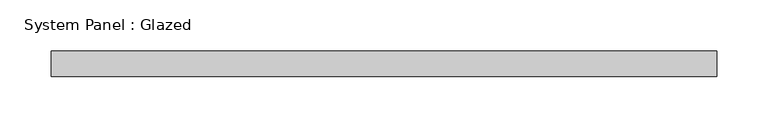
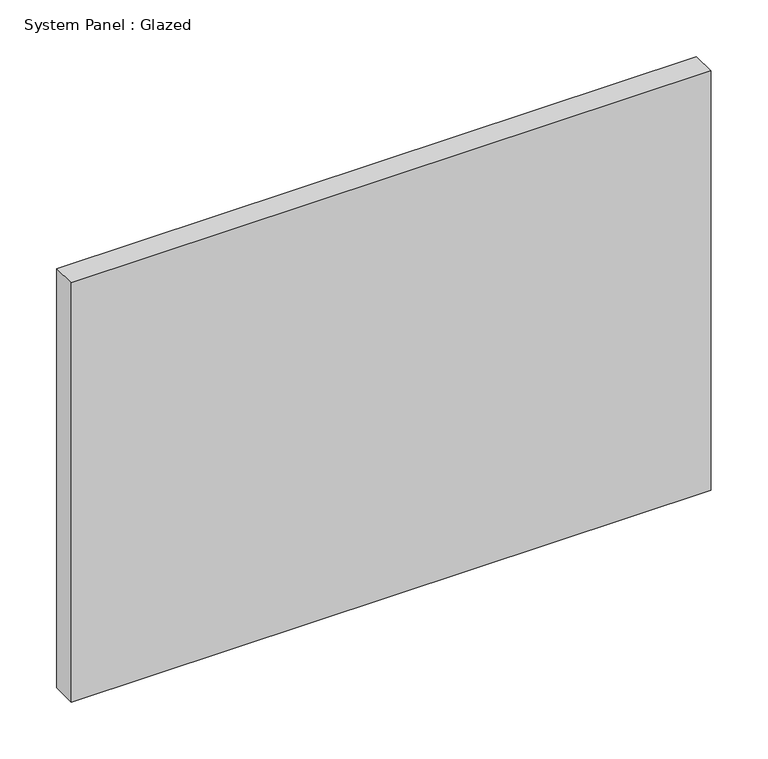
"""IFC4 building model written with IfcOpenShell, lengths in millimetres: plate geometry, System Panel : Glazed."""

from ifc_helpers import new_model, si_unit, origin, origin_with_axes, place, context, project, spatial, polyline, outline, extrude, source, transform, mapped, element, save


def system_panel_glazed_61722dae(model_context):
    return source(origin(), model_context, "Body", "SweptSolid", [
        extrude(outline(polyline([(325.0000001, -49.5), (-325.0000001, -49.5), (-325.0000001, -24.5), (325.0000001, -24.5), (325.0000001, -49.5)])), origin_with_axes(), (0.0, 0.0, 1.0), 450.0),
    ])


if __name__ == "__main__":
    model = new_model("IFC4")
    model_context = context("Model", 3, world=origin())
    ifc_project = project(units=[si_unit("LENGTHUNIT", "METRE", prefix="MILLI")], contexts=[model_context])
    site = spatial("IfcSite", under=ifc_project)
    building = spatial("IfcBuilding", under=site)
    placement = place(None, origin())
    system_panel_glazed_shape = system_panel_glazed_61722dae(model_context)
    element("IfcPlate", 1, ObjectType="System Panel : Glazed", at=placement, inside=building, context=model_context, shape_type="MappedRepresentation", body=[
        mapped(system_panel_glazed_shape, transform((0.0, 0.0, 0.0), x_axis=(1.0, 0.0, 0.0), y_axis=(0.0, 1.0, 0.0), z_axis=(0.0, 0.0, 1.0))),
    ])
    save(model, "model.ifc")
